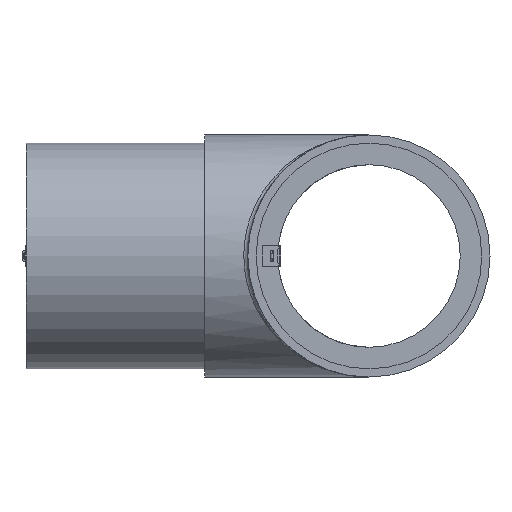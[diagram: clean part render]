
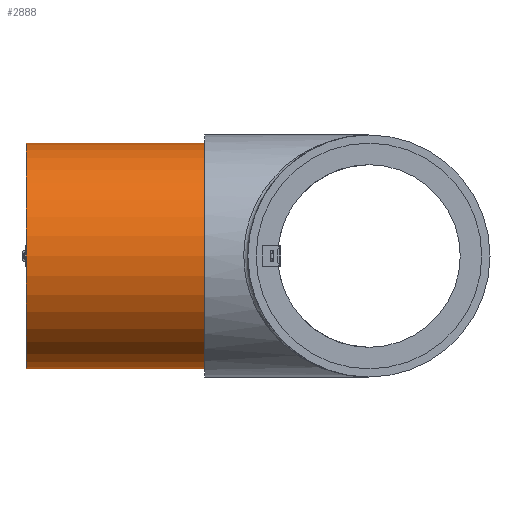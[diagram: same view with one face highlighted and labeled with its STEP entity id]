
A CAD part, left-side view. The second image highlights one B-rep face of the part: STEP entity #2888.
In plain terms, the highlighted cylindrical face has radius 55 mm (diameter 110 mm), a partial arc.
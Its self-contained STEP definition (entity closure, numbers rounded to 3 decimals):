
#116 = VECTOR ( 'NONE', #2291, 1000. ) ;
#312 = FACE_OUTER_BOUND ( 'NONE', #1238, .T. ) ;
#456 = AXIS2_PLACEMENT_3D ( 'NONE', #1188, #3051, #1475 ) ;
#534 = DIRECTION ( 'NONE',  ( 0., 1., 0. ) ) ;
#573 = CIRCLE ( 'NONE', #2098, 55. ) ;
#605 = DIRECTION ( 'NONE',  ( 0., 1., 0. ) ) ;
#780 = DIRECTION ( 'NONE',  ( 0., 0., 1. ) ) ;
#855 = CARTESIAN_POINT ( 'NONE',  ( -36.319, 24.442, 13.229 ) ) ;
#870 = DIRECTION ( 'NONE',  ( 0., 0., 1. ) ) ;
#884 = ORIENTED_EDGE ( 'NONE', *, *, #3019, .T. ) ;
#952 = LINE ( 'NONE', #1939, #954 ) ;
#954 = VECTOR ( 'NONE', #534, 1000. ) ;
#1188 = CARTESIAN_POINT ( 'NONE',  ( -36.319, 111.442, 13.229 ) ) ;
#1238 = EDGE_LOOP ( 'NONE', ( #1687, #3439, #884, #2689 ) ) ;
#1340 = VERTEX_POINT ( 'NONE', #1532 ) ;
#1435 = CYLINDRICAL_SURFACE ( 'NONE', #2040, 55. ) ;
#1475 = DIRECTION ( 'NONE',  ( 0., 0., 1. ) ) ;
#1531 = LINE ( 'NONE', #3289, #116 ) ;
#1532 = CARTESIAN_POINT ( 'NONE',  ( -36.319, 24.442, 68.229 ) ) ;
#1598 = CARTESIAN_POINT ( 'NONE',  ( -36.319, 111.442, -41.771 ) ) ;
#1687 = ORIENTED_EDGE ( 'NONE', *, *, #2378, .F. ) ;
#1852 = VERTEX_POINT ( 'NONE', #1598 ) ;
#1884 = VERTEX_POINT ( 'NONE', #2924 ) ;
#1939 = CARTESIAN_POINT ( 'NONE',  ( -36.319, -110.559, -41.771 ) ) ;
#2040 = AXIS2_PLACEMENT_3D ( 'NONE', #2734, #605, #870 ) ;
#2098 = AXIS2_PLACEMENT_3D ( 'NONE', #855, #2724, #780 ) ;
#2291 = DIRECTION ( 'NONE',  ( 0., 1., 0. ) ) ;
#2378 = EDGE_CURVE ( 'NONE', #3121, #1852, #952, .T. ) ;
#2689 = ORIENTED_EDGE ( 'NONE', *, *, #3020, .F. ) ;
#2724 = DIRECTION ( 'NONE',  ( 0., -1., 0. ) ) ;
#2734 = CARTESIAN_POINT ( 'NONE',  ( -36.319, -110.559, 13.229 ) ) ;
#2826 = EDGE_CURVE ( 'NONE', #1340, #3121, #573, .T. ) ;
#2888 = ADVANCED_FACE ( 'NONE', ( #312 ), #1435, .T. ) ;
#2924 = CARTESIAN_POINT ( 'NONE',  ( -36.319, 111.442, 68.229 ) ) ;
#3019 = EDGE_CURVE ( 'NONE', #1340, #1884, #1531, .T. ) ;
#3020 = EDGE_CURVE ( 'NONE', #1852, #1884, #3088, .T. ) ;
#3051 = DIRECTION ( 'NONE',  ( 0., 1., 0. ) ) ;
#3088 = CIRCLE ( 'NONE', #456, 55. ) ;
#3121 = VERTEX_POINT ( 'NONE', #3334 ) ;
#3289 = CARTESIAN_POINT ( 'NONE',  ( -36.319, -110.559, 68.229 ) ) ;
#3334 = CARTESIAN_POINT ( 'NONE',  ( -36.319, 24.442, -41.771 ) ) ;
#3439 = ORIENTED_EDGE ( 'NONE', *, *, #2826, .F. ) ;
